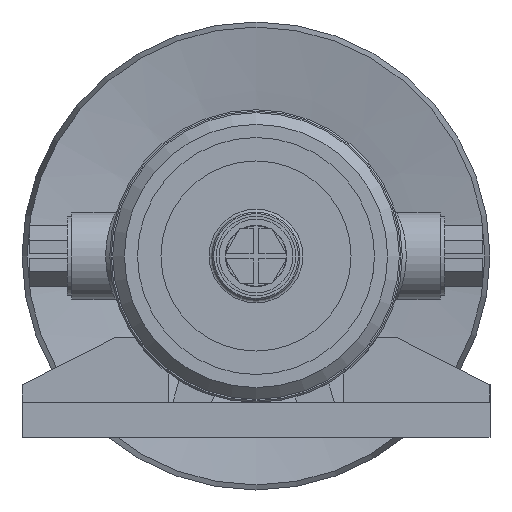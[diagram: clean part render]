
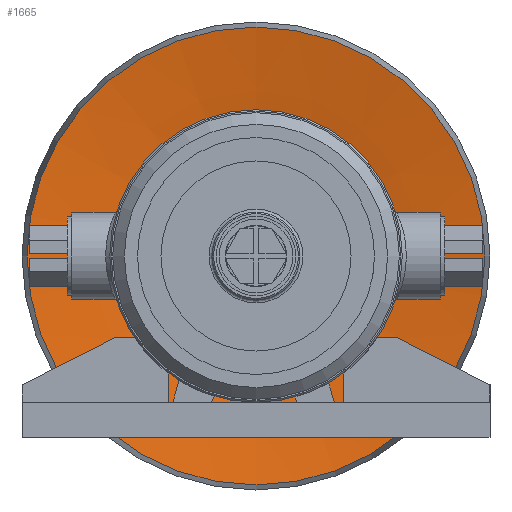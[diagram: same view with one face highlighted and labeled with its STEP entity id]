
A CAD part, left-side view. The second image highlights one B-rep face of the part: STEP entity #1665.
In plain terms, the highlighted conical face has half-angle 80 degrees and reference radius 78.263 mm.
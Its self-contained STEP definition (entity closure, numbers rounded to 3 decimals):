
#1665 = ADVANCED_FACE( '', ( #3038, #3039 ), #3040, .F. );
#3038 = FACE_BOUND( '', #5306, .T. );
#3039 = FACE_OUTER_BOUND( '', #5307, .T. );
#3040 = CONICAL_SURFACE( '', #5308, 78.264, 1.396 );
#5306 = EDGE_LOOP( '', ( #7319 ) );
#5307 = EDGE_LOOP( '', ( #7320 ) );
#5308 = AXIS2_PLACEMENT_3D( '', #7321, #7322, #7323 );
#7319 = ORIENTED_EDGE( '', *, *, #8655, .F. );
#7320 = ORIENTED_EDGE( '', *, *, #8715, .T. );
#7321 = CARTESIAN_POINT( '', ( -17.629, 0., 0. ) );
#7322 = DIRECTION( '', ( -1., 0., 0. ) );
#7323 = DIRECTION( '', ( 0., 0., 1. ) );
#8655 = EDGE_CURVE( '', #9970, #9970, #9971, .T. );
#8715 = EDGE_CURVE( '', #10044, #10044, #10045, .T. );
#9970 = VERTEX_POINT( '', #13150 );
#9971 = CIRCLE( '', #13151, 35. );
#10044 = VERTEX_POINT( '', #13426 );
#10045 = CIRCLE( '', #13427, 78.264 );
#13150 = CARTESIAN_POINT( '', ( -10., 0., 35. ) );
#13151 = AXIS2_PLACEMENT_3D( '', #14508, #14509, #14510 );
#13426 = CARTESIAN_POINT( '', ( -17.629, 0., 78.264 ) );
#13427 = AXIS2_PLACEMENT_3D( '', #14559, #14560, #14561 );
#14508 = CARTESIAN_POINT( '', ( -10., 0., 0. ) );
#14509 = DIRECTION( '', ( -1., 0., 0. ) );
#14510 = DIRECTION( '', ( 0., 0., 1. ) );
#14559 = CARTESIAN_POINT( '', ( -17.629, 0., 0. ) );
#14560 = DIRECTION( '', ( -1., 0., 0. ) );
#14561 = DIRECTION( '', ( 0., 0., 1. ) );
